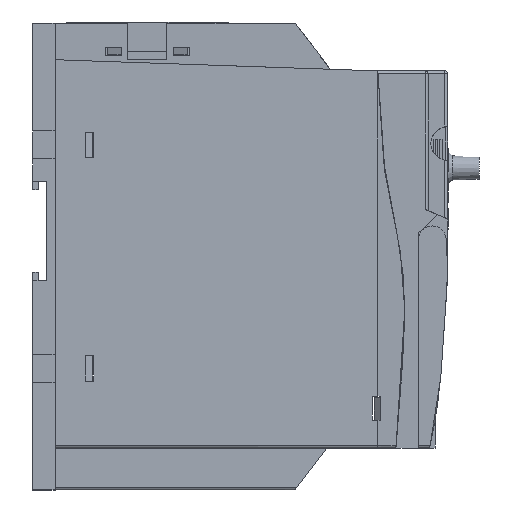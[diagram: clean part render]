
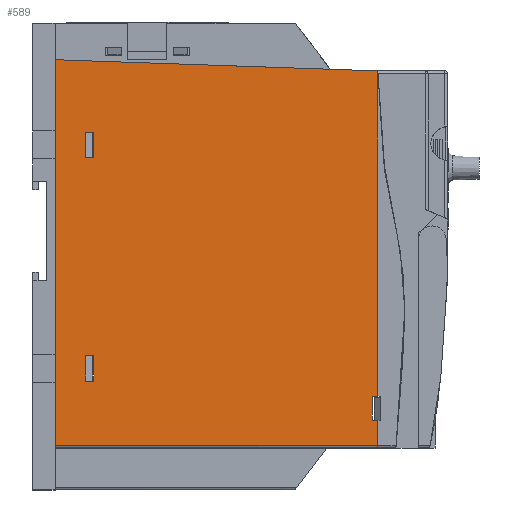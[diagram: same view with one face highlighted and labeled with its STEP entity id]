
A CAD part, front view. The second image highlights one B-rep face of the part: STEP entity #589.
In plain terms, the highlighted planar face has unit normal (0.017, -1, 0) as drawn and (1, 0.017, 0) by its records, which use the part's own axes.
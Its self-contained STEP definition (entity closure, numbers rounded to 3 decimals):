
#589=ADVANCED_FACE('',(#5634,#5636,#5638),#5640,.F.);
#5634=FACE_BOUND('',#5635,.T.);
#5635=EDGE_LOOP('',(#13485,#13486,#13487,#13488,#13489,#13490,#13491,#13492));
#5636=FACE_BOUND('',#5637,.T.);
#5637=EDGE_LOOP('',(#13493,#13494,#13495,#13496));
#5638=FACE_BOUND('',#5639,.T.);
#5639=EDGE_LOOP('',(#13497,#13498,#13499,#13500));
#5640=PLANE('',#5641);
#5641=AXIS2_PLACEMENT_3D('',#5642,#5643,#5644);
#5642=CARTESIAN_POINT('',(107.,115.5,0.));
#5643=DIRECTION('',(-1.,-0.017,0.));
#5644=DIRECTION('',(0.017,-1.,0.));
#13485=ORIENTED_EDGE('',*,*,#18993,.F.);
#13486=ORIENTED_EDGE('',*,*,#18979,.T.);
#13487=ORIENTED_EDGE('',*,*,#18994,.T.);
#13488=ORIENTED_EDGE('',*,*,#18995,.T.);
#13489=ORIENTED_EDGE('',*,*,#18996,.T.);
#13490=ORIENTED_EDGE('',*,*,#18975,.T.);
#13491=ORIENTED_EDGE('',*,*,#18962,.F.);
#13492=ORIENTED_EDGE('',*,*,#18997,.F.);
#13493=ORIENTED_EDGE('',*,*,#18998,.T.);
#13494=ORIENTED_EDGE('',*,*,#18999,.T.);
#13495=ORIENTED_EDGE('',*,*,#19000,.T.);
#13496=ORIENTED_EDGE('',*,*,#19001,.T.);
#13497=ORIENTED_EDGE('',*,*,#19002,.T.);
#13498=ORIENTED_EDGE('',*,*,#19003,.T.);
#13499=ORIENTED_EDGE('',*,*,#19004,.T.);
#13500=ORIENTED_EDGE('',*,*,#19005,.T.);
#18962=EDGE_CURVE('',#22245,#22152,#22247,.F.);
#18975=EDGE_CURVE('',#22271,#22152,#22272,.T.);
#18979=EDGE_CURVE('',#22269,#22277,#22279,.T.);
#18993=EDGE_CURVE('',#22269,#22303,#22304,.F.);
#18994=EDGE_CURVE('',#22277,#22305,#22306,.T.);
#18995=EDGE_CURVE('',#22305,#22307,#22308,.T.);
#18996=EDGE_CURVE('',#22307,#22271,#22309,.T.);
#18997=EDGE_CURVE('',#22303,#22245,#22310,.F.);
#18998=EDGE_CURVE('',#22311,#22312,#22313,.T.);
#18999=EDGE_CURVE('',#22312,#22314,#22315,.T.);
#19000=EDGE_CURVE('',#22314,#22316,#22317,.T.);
#19001=EDGE_CURVE('',#22316,#22311,#22318,.T.);
#19002=EDGE_CURVE('',#22319,#22320,#22321,.T.);
#19003=EDGE_CURVE('',#22320,#22322,#22323,.T.);
#19004=EDGE_CURVE('',#22322,#22324,#22325,.T.);
#19005=EDGE_CURVE('',#22324,#22319,#22326,.T.);
#22152=VERTEX_POINT('',#27977);
#22245=VERTEX_POINT('',#28207);
#22247=LINE('',#28211,#28212);
#22269=VERTEX_POINT('',#28257);
#22271=VERTEX_POINT('',#28261);
#22272=LINE('',#28262,#28263);
#22277=VERTEX_POINT('',#28273);
#22279=LINE('',#28277,#28278);
#22303=VERTEX_POINT('',#28329);
#22304=LINE('',#28330,#28331);
#22305=VERTEX_POINT('',#28333);
#22306=LINE('',#28334,#28335);
#22307=VERTEX_POINT('',#28337);
#22308=LINE('',#28338,#28339);
#22309=LINE('',#28341,#28342);
#22310=LINE('',#28344,#28345);
#22311=VERTEX_POINT('',#28347);
#22312=VERTEX_POINT('',#28348);
#22313=LINE('',#28349,#28350);
#22314=VERTEX_POINT('',#28352);
#22315=LINE('',#28353,#28354);
#22316=VERTEX_POINT('',#28356);
#22317=LINE('',#28357,#28358);
#22318=LINE('',#28360,#28361);
#22319=VERTEX_POINT('',#28363);
#22320=VERTEX_POINT('',#28364);
#22321=LINE('',#28365,#28366);
#22322=VERTEX_POINT('',#28368);
#22323=LINE('',#28369,#28370);
#22324=VERTEX_POINT('',#28372);
#22325=LINE('',#28373,#28374);
#22326=LINE('',#28376,#28377);
#27977=CARTESIAN_POINT('',(107.,115.5,135.));
#28207=CARTESIAN_POINT('',(109.,0.,139.));
#28211=CARTESIAN_POINT('',(107.,115.5,135.));
#28212=VECTOR('',#28213,1.);
#28213=DIRECTION('',(0.017,-0.999,0.035));
#28257=CARTESIAN_POINT('',(107.,115.5,1.));
#28261=CARTESIAN_POINT('',(107.,115.5,18.5));
#28262=CARTESIAN_POINT('',(107.,115.5,18.5));
#28263=VECTOR('',#28264,1.);
#28264=DIRECTION('',(0.,0.,1.));
#28273=CARTESIAN_POINT('',(107.,115.5,10.));
#28277=CARTESIAN_POINT('',(107.,115.5,1.));
#28278=VECTOR('',#28279,1.);
#28279=DIRECTION('',(0.,0.,1.));
#28329=CARTESIAN_POINT('',(109.,0.,1.));
#28330=CARTESIAN_POINT('',(109.,0.,1.));
#28331=VECTOR('',#28332,1.);
#28332=DIRECTION('',(-0.017,1.,0.));
#28333=CARTESIAN_POINT('',(107.035,113.5,10.));
#28334=CARTESIAN_POINT('',(107.,115.5,10.));
#28335=VECTOR('',#28336,1.);
#28336=DIRECTION('',(0.017,-1.,0.));
#28337=CARTESIAN_POINT('',(107.035,113.5,18.5));
#28338=CARTESIAN_POINT('',(107.035,113.5,10.));
#28339=VECTOR('',#28340,1.);
#28340=DIRECTION('',(0.,0.,1.));
#28341=CARTESIAN_POINT('',(107.035,113.5,18.5));
#28342=VECTOR('',#28343,1.);
#28343=DIRECTION('',(-0.017,1.,0.));
#28344=CARTESIAN_POINT('',(109.,0.,139.));
#28345=VECTOR('',#28346,1.);
#28346=DIRECTION('',(0.,0.,-1.));
#28347=CARTESIAN_POINT('',(108.759,13.9,24.));
#28348=CARTESIAN_POINT('',(108.81,11.,24.));
#28349=CARTESIAN_POINT('',(108.759,13.9,24.));
#28350=VECTOR('',#28351,1.);
#28351=DIRECTION('',(0.017,-1.,0.));
#28352=CARTESIAN_POINT('',(108.81,11.,33.));
#28353=CARTESIAN_POINT('',(108.81,11.,24.));
#28354=VECTOR('',#28355,1.);
#28355=DIRECTION('',(0.,0.,1.));
#28356=CARTESIAN_POINT('',(108.759,13.9,33.));
#28357=CARTESIAN_POINT('',(108.81,11.,33.));
#28358=VECTOR('',#28359,1.);
#28359=DIRECTION('',(-0.017,1.,0.));
#28360=CARTESIAN_POINT('',(108.759,13.9,33.));
#28361=VECTOR('',#28362,1.);
#28362=DIRECTION('',(0.,0.,-1.));
#28363=CARTESIAN_POINT('',(108.759,13.9,104.));
#28364=CARTESIAN_POINT('',(108.81,11.,104.));
#28365=CARTESIAN_POINT('',(108.759,13.9,104.));
#28366=VECTOR('',#28367,1.);
#28367=DIRECTION('',(0.017,-1.,0.));
#28368=CARTESIAN_POINT('',(108.81,11.,113.));
#28369=CARTESIAN_POINT('',(108.81,11.,104.));
#28370=VECTOR('',#28371,1.);
#28371=DIRECTION('',(0.,0.,1.));
#28372=CARTESIAN_POINT('',(108.759,13.9,113.));
#28373=CARTESIAN_POINT('',(108.81,11.,113.));
#28374=VECTOR('',#28375,1.);
#28375=DIRECTION('',(-0.017,1.,0.));
#28376=CARTESIAN_POINT('',(108.759,13.9,113.));
#28377=VECTOR('',#28378,1.);
#28378=DIRECTION('',(0.,0.,-1.));
